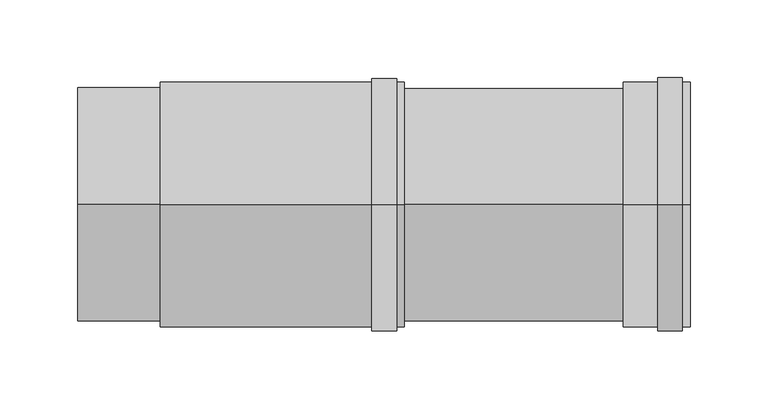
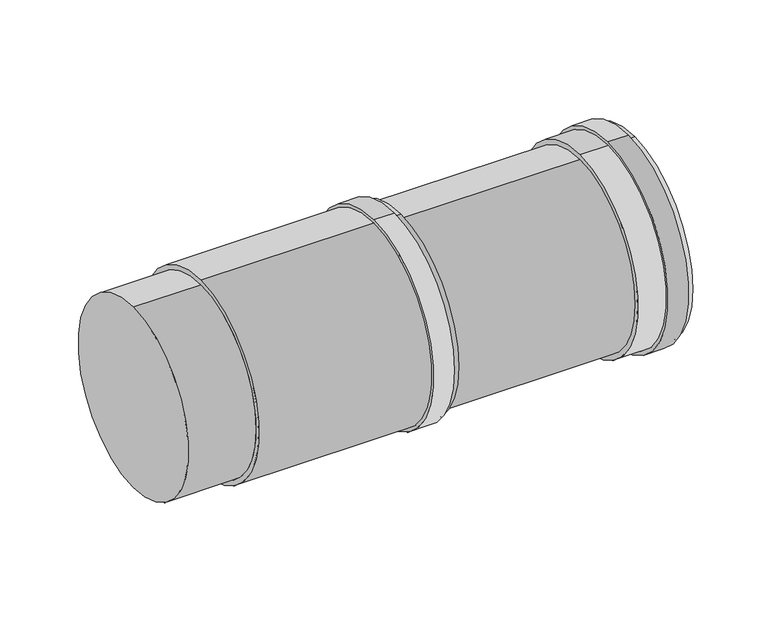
"""IFC4 building model written with IfcOpenShell, lengths in millimetres: duct fitting geometry, RSFen_DUF_UN_Twinline Adjuster_M&G : ø130-150."""

from ifc_helpers import new_model, si_unit, point, frame, origin, origin_2d, place, context, project, spatial, polyline, circle_curve, trimmed, segment, composite_curve, outline, extrude, source, transform, mapped, element, save
from ifc_brep_helpers import plane_surface, cylinder_surface, revolved_surface, advanced_brep


def duct_fitting_86b3afc8(model_context):
    return source(origin(), model_context, "Body", "SolidModel", [
        extrude(outline(composite_curve([segment(trimmed(circle_curve(origin_2d(), 81.5), [point((0.0, -81.5))], [point((0.0, 81.5))], False, "CARTESIAN"), True, "CONTINUOUS"), segment(trimmed(circle_curve(origin_2d(), 81.5), [point((0.0, 81.5))], [point((0.0, -81.5))], False, "CARTESIAN"), True, "CONTINUOUS")], self_intersect=False), holes=[composite_curve([segment(trimmed(circle_curve(origin_2d(), 78.5), [point((0.0, 78.5))], [point((0.0, -78.5))], True, "CARTESIAN"), True, "CONTINUOUS"), segment(trimmed(circle_curve(origin_2d(), 78.5), [point((0.0, -78.5))], [point((0.0, 78.5))], True, "CARTESIAN"), True, "CONTINUOUS")], self_intersect=False)]), frame((189.0, 0.0, 0.0), z_axis=(1.0, 0.0, 0.0), x_axis=(0.0, 1.0, 0.0)), (0.0, 0.0, 1.0), 16.0),
        advanced_brep(
        [(350.8367064, 0.0, -75.0), (350.8367064, 0.0, 75.0), (0.0, 0.0, -75.0), (0.0, 0.0, 75.0), (210.0, 0.0, 75.0), (210.0, 0.0, -75.0), (53.0, 0.0, -75.0), (53.0, 0.0, 75.0), (210.0, 0.0, -79.0), (210.0, 0.0, 79.0), (53.0, 0.0, -79.0), (53.0, 0.0, 79.0)],
        [
            (0, 1, circle_curve(frame((350.8367064, 0.0, 0.0), z_axis=(1.0, 0.0, 0.0), x_axis=(0.0, 0.0, 1.0)), 75.0)),
            (1, 0, circle_curve(frame((350.8367064, 0.0, 0.0), z_axis=(1.0, 0.0, 0.0), x_axis=(0.0, 0.0, 1.0)), 75.0)),
            (2, 3, circle_curve(frame((0.0, 0.0, 0.0), z_axis=(-1.0, 0.0, 0.0), x_axis=(0.0, 0.0, 1.0)), 75.0)),
            (3, 2, circle_curve(frame((0.0, 0.0, 0.0), z_axis=(-1.0, 0.0, 0.0), x_axis=(0.0, 0.0, 1.0)), 75.0)),
            (1, 4),
            (4, 5, circle_curve(frame((210.0, 0.0, 0.0), z_axis=(1.0, 0.0, 0.0), x_axis=(0.0, 0.0, 1.0)), 75.0)),
            (5, 0),
            (2, 6),
            (6, 7, circle_curve(frame((53.0, 0.0, 0.0), z_axis=(-1.0, 0.0, 0.0), x_axis=(0.0, 0.0, 1.0)), 75.0)),
            (7, 3),
            (5, 4, circle_curve(frame((210.0, 0.0, 0.0), z_axis=(1.0, 0.0, 0.0), x_axis=(0.0, 0.0, 1.0)), 75.0)),
            (7, 6, circle_curve(frame((53.0, 0.0, 0.0), z_axis=(-1.0, 0.0, 0.0), x_axis=(0.0, 0.0, 1.0)), 75.0)),
            (8, 9, circle_curve(frame((210.0, 0.0, 0.0), z_axis=(1.0, 0.0, 0.0), x_axis=(0.0, 0.0, 1.0)), 79.0)),
            (9, 8, circle_curve(frame((210.0, 0.0, 0.0), z_axis=(1.0, 0.0, 0.0), x_axis=(0.0, 0.0, 1.0)), 79.0)),
            (10, 11, circle_curve(frame((53.0, 0.0, 0.0), z_axis=(-1.0, 0.0, 0.0), x_axis=(0.0, 0.0, 1.0)), 79.0)),
            (11, 10, circle_curve(frame((53.0, 0.0, 0.0), z_axis=(-1.0, 0.0, 0.0), x_axis=(0.0, 0.0, 1.0)), 79.0)),
            (8, 10),
            (11, 9),
        ],
        [
            plane_surface(frame((350.8367064, 0.0, 75.0), z_axis=(1.0, 0.0, 0.0), x_axis=(0.0, -1.0, 0.0))),
            plane_surface(frame((0.0, 0.0, 75.0), z_axis=(-1.0, 0.0, 0.0), x_axis=(0.0, 1.0, 0.0))),
            cylinder_surface(frame((350.8367064, 0.0, 0.0), z_axis=(-1.0, 0.0, 0.0), x_axis=(0.0, 0.0, 1.0)), 75.0),
            plane_surface(frame((210.0, 0.0, 79.0), z_axis=(1.0, 0.0, 0.0), x_axis=(0.0, -1.0, 0.0))),
            plane_surface(frame((53.0, 0.0, 79.0), z_axis=(-1.0, 0.0, 0.0), x_axis=(0.0, 1.0, 0.0))),
            cylinder_surface(frame((210.0, 0.0, 0.0), z_axis=(-1.0, 0.0, 0.0), x_axis=(0.0, 0.0, 1.0)), 79.0),
        ],
        [
            (0, [[1, 2]]),
            (1, [[3, 4]]),
            (2, [[-2, 5, 6, 7]]),
            (2, [[-3, 8, 9, 10]]),
            (2, [[-1, -7, 11, -5]]),
            (2, [[-4, -10, 12, -8]]),
            (3, [[13, 14], [-6, -11]]),
            (4, [[15, 16], [-9, -12]]),
            (5, [[-13, 17, -16, 18]]),
            (5, [[-14, -18, -15, -17]]),
        ],
    ),
        advanced_brep(
        [(350.8367064, 0.0, -79.0), (350.8367064, 0.0, 79.0), (393.8367064, 0.0, 79.0), (393.8367064, 0.0, -79.0), (353.8367064, 0.0, 76.0), (353.8367064, 0.0, -76.0), (393.8367064, 0.0, -76.0), (393.8367064, 0.0, 76.0)],
        [
            (0, 1, circle_curve(frame((350.8367064, 0.0, 0.0), z_axis=(-1.0, 0.0, 0.0), x_axis=(0.0, 0.0, 1.0)), 79.0)),
            (1, 0, circle_curve(frame((350.8367064, 0.0, 0.0), z_axis=(-1.0, 0.0, 0.0), x_axis=(0.0, 0.0, 1.0)), 79.0)),
            (2, 3, circle_curve(frame((393.8367064, 0.0, 0.0), z_axis=(-1.0, 0.0, 0.0), x_axis=(0.0, 0.0, 1.0)), 79.0)),
            (3, 0),
            (1, 2),
            (3, 2, circle_curve(frame((393.8367064, 0.0, 0.0), z_axis=(-1.0, 0.0, 0.0), x_axis=(0.0, 0.0, 1.0)), 79.0)),
            (4, 5, circle_curve(frame((353.8367064, 0.0, 0.0), z_axis=(-1.0, 0.0, 0.0), x_axis=(0.0, 0.0, -1.0)), 76.0)),
            (5, 6),
            (6, 7, circle_curve(frame((393.8367064, 0.0, 0.0), z_axis=(1.0, 0.0, 0.0), x_axis=(0.0, 0.0, -1.0)), 76.0)),
            (7, 4),
            (5, 4, circle_curve(frame((353.8367064, 0.0, 0.0), z_axis=(-1.0, 0.0, 0.0), x_axis=(0.0, 0.0, -1.0)), 76.0)),
            (7, 6, circle_curve(frame((393.8367064, 0.0, 0.0), z_axis=(1.0, 0.0, 0.0), x_axis=(0.0, 0.0, -1.0)), 76.0)),
        ],
        [
            plane_surface(frame((350.8367064, 0.0, 79.0), z_axis=(-1.0, 0.0, 0.0), x_axis=(0.0, 1.0, 0.0))),
            cylinder_surface(frame((350.8367064, 0.0, 0.0), z_axis=(1.0, 0.0, 0.0), x_axis=(0.0, 0.0, 1.0)), 79.0),
            revolved_surface(polyline([(353.8367064, 0.0, -76.0), (393.8367064, 0.0, -76.0)]), (393.8367064, 0.0, 0.0), (-1.0, 0.0, 0.0)),
            plane_surface(frame((393.8367064, 0.0, 79.0), z_axis=(1.0, 0.0, 0.0), x_axis=(0.0, -1.0, 0.0))),
            plane_surface(frame((353.8367064, 0.0, -76.0), z_axis=(1.0, 0.0, 0.0), x_axis=(0.0, -1.0, 0.0))),
        ],
        [
            (0, [[1, 2]]),
            (1, [[3, 4, -2, 5]]),
            (1, [[6, -5, -1, -4]]),
            (2, [[7, 8, 9, 10]]),
            (2, [[11, -10, 12, -8]]),
            (3, [[-3, -6], [-9, -12]]),
            (4, [[-11, -7]]),
        ],
    ),
        extrude(outline(composite_curve([segment(trimmed(circle_curve(origin_2d(), 82.0), [point((0.0, -82.0))], [point((0.0, 82.0))], False, "CARTESIAN"), True, "CONTINUOUS"), segment(trimmed(circle_curve(origin_2d(), 82.0), [point((0.0, 82.0))], [point((0.0, -82.0))], False, "CARTESIAN"), True, "CONTINUOUS")], self_intersect=False), holes=[composite_curve([segment(trimmed(circle_curve(origin_2d(), 79.0), [point((0.0, 79.0))], [point((0.0, -79.0))], True, "CARTESIAN"), True, "CONTINUOUS"), segment(trimmed(circle_curve(origin_2d(), 79.0), [point((0.0, -79.0))], [point((0.0, 79.0))], True, "CARTESIAN"), True, "CONTINUOUS")], self_intersect=False)]), frame((372.8367064, 0.0, 0.0), z_axis=(1.0, 0.0, 0.0), x_axis=(0.0, 1.0, 0.0)), (0.0, 0.0, 1.0), 16.0),
    ])


if __name__ == "__main__":
    model = new_model("IFC4")
    model_context = context("Model", 3, world=origin())
    ifc_project = project(units=[si_unit("LENGTHUNIT", "METRE", prefix="MILLI")], contexts=[model_context])
    site = spatial("IfcSite", under=ifc_project)
    building = spatial("IfcBuilding", under=site)
    placement = place(None, origin())
    duct_fitting_shape = duct_fitting_86b3afc8(model_context)
    element("IfcDuctFitting", 1, ObjectType="RSFen_DUF_UN_Twinline Adjuster_M&G : ø130-150", at=placement, inside=building, context=model_context, shape_type="MappedRepresentation", body=[
        mapped(duct_fitting_shape, transform((0.0, 0.0, 0.0), x_axis=(1.0, 0.0, 0.0), y_axis=(0.0, 1.0, 0.0), z_axis=(0.0, 0.0, 1.0))),
    ])
    save(model, "model.ifc")
